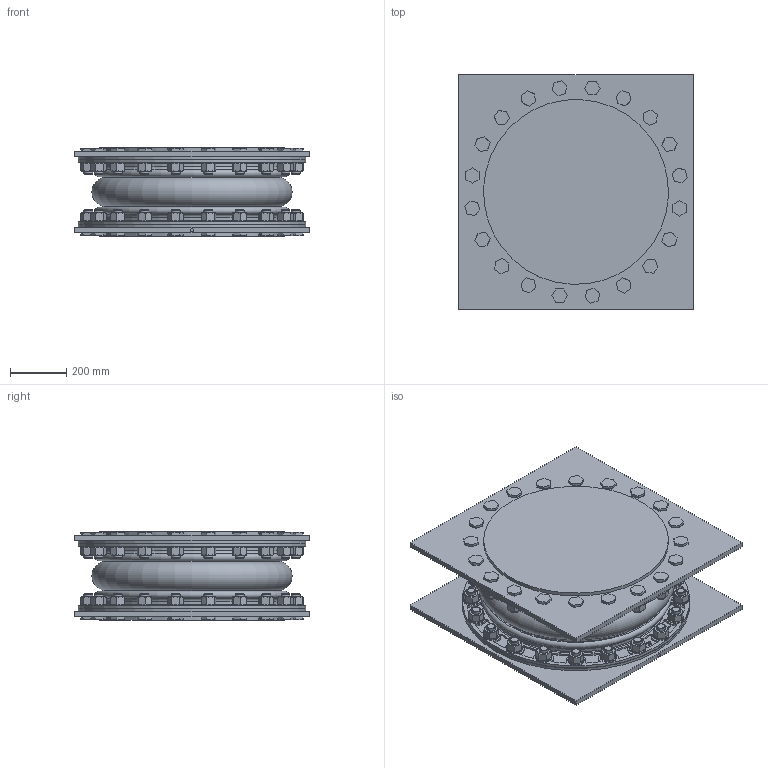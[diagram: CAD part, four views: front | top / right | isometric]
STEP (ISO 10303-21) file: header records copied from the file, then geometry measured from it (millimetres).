
FILE_DESCRIPTION(/* description */ (''),/* implementation_level */ '2;1');
FILE_NAME(/* name */ 'C:\Users\rramoutar\Desktop\New folder\451AS-24.stp',/* time_stamp */ '2016-01-15T14:46:53-05:00',/* author */ ('rramoutar'),/* organization */ ('Mason Industries Inc.'),/* preprocessor_version */ 'ST-DEVELOPER v15.6',/* originating_system */ 'Autodesk Inventor 2015',/* authorisation */ '');
FILE_SCHEMA (('CONFIG_CONTROL_DESIGN'));
Products named in the file (1): 451AS-24
Bounding box: 838.2 x 838.2 x 317.5 mm (x, y, z)
Volume: 59003483.4 mm3; surface area: 9283491.8 mm2
Topology: 128 solids, 130 shells, 3295 faces, 7587 edges, 4678 vertices
Faces by surface type: plane 1375, cylinder 1020, cone 644, bspline 198, torus 58
Full cylindrical faces by diameter (mm): 11.112 x1, 15.875 x4, 25.4 x1, 27.813 x40, 31.75 x40, 32.436 x40, 33.325 x40, 34.925 x360, 47.625 x40, 57.15 x40, 254.508 x1, 273.05 x1, 609.6 x2, 633.603 x2, 641.35 x2, 660.4 x2, 812.8 x2, 812.843 x2
Entity records: 92117 total; most frequent: CARTESIAN_POINT 19842, DIRECTION 14108, ORIENTED_EDGE 13242, EDGE_CURVE 6621, AXIS2_PLACEMENT_3D 5755, EDGE_LOOP 4686, VERTEX_POINT 4555, STYLED_ITEM 3423
